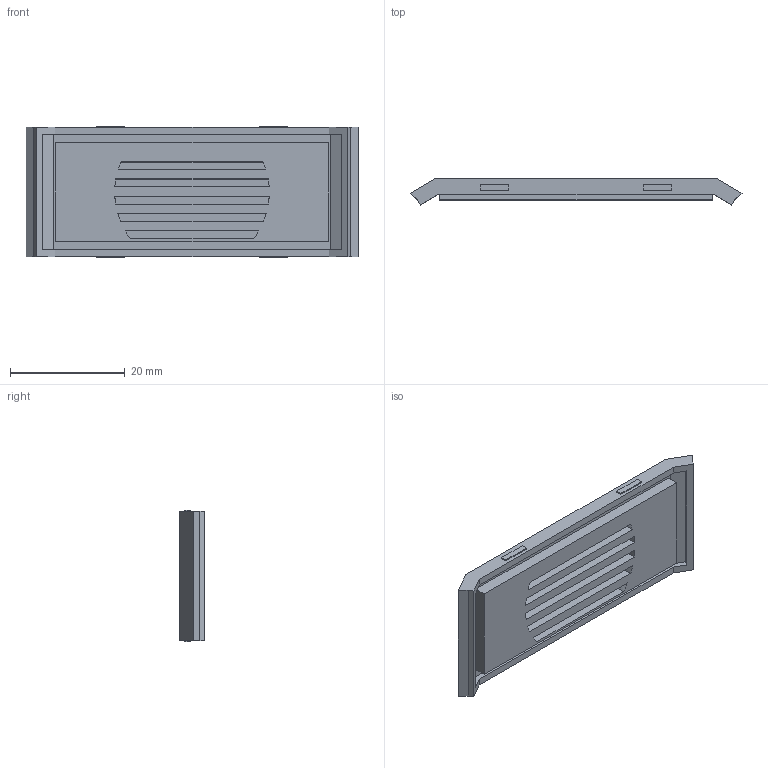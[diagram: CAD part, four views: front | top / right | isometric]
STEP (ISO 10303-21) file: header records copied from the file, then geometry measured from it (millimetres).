
FILE_DESCRIPTION (( 'STEP AP214' ), '1' );
FILE_NAME ('Tapeta visor PP30.STEP', '2018-08-07T16:04:03', ( 'aaa' ), ( '' ), 'SwSTEP 2.0', 'SolidWorks 2013', '' );
FILE_SCHEMA (( 'AUTOMOTIVE_DESIGN' ));
Length unit declared in the file: millimetre
Products named in the file (1): Tapeta visor PP30
Bounding box: 57.96 x 4.52 x 23 mm (x, y, z)
Volume: 2940.4 mm3; surface area: 4831.5 mm2
Topology: 1 solids, 1 shells, 95 faces, 262 edges, 174 vertices
Faces by surface type: plane 85, cylinder 10
Entity records: 3042 total; most frequent: CARTESIAN_POINT 532, ORIENTED_EDGE 524, DIRECTION 482, EDGE_CURVE 262, VECTOR 234, LINE 234, VERTEX_POINT 174, AXIS2_PLACEMENT_3D 124
